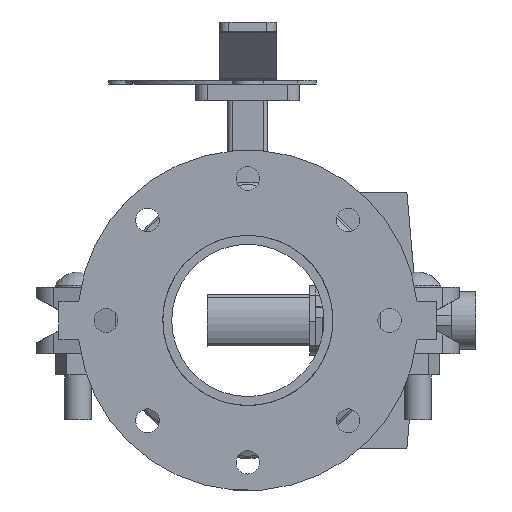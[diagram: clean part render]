
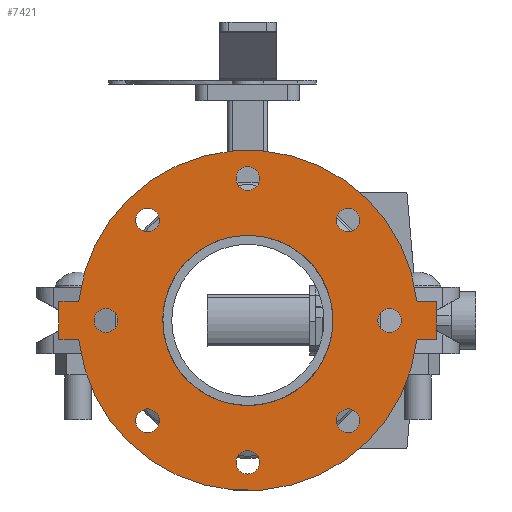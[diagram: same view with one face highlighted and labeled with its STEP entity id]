
A CAD part, front view. The second image highlights one B-rep face of the part: STEP entity #7421.
In plain terms, the highlighted planar face has unit normal (0, -1, 0) as drawn and (0, 0, -1) by its records, which use the part's own axes.
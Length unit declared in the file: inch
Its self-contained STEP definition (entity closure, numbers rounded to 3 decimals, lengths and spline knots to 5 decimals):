
#170=FACE_BOUND('',#919,.T.);
#171=FACE_BOUND('',#920,.T.);
#172=FACE_BOUND('',#921,.T.);
#173=FACE_BOUND('',#922,.T.);
#174=FACE_BOUND('',#923,.T.);
#175=FACE_BOUND('',#924,.T.);
#176=FACE_BOUND('',#925,.T.);
#177=FACE_BOUND('',#926,.T.);
#178=FACE_BOUND('',#927,.T.);
#268=PLANE('',#8052);
#509=FACE_OUTER_BOUND('',#918,.T.);
#918=EDGE_LOOP('',(#4764,#4765,#4766,#4767,#4768,#4769,#4770,#4771));
#919=EDGE_LOOP('',(#4772));
#920=EDGE_LOOP('',(#4773));
#921=EDGE_LOOP('',(#4774));
#922=EDGE_LOOP('',(#4775));
#923=EDGE_LOOP('',(#4776));
#924=EDGE_LOOP('',(#4777));
#925=EDGE_LOOP('',(#4778));
#926=EDGE_LOOP('',(#4779));
#927=EDGE_LOOP('',(#4780,#4781));
#1425=LINE('',#11290,#1982);
#1426=LINE('',#11292,#1983);
#1427=LINE('',#11294,#1984);
#1428=LINE('',#11298,#1985);
#1429=LINE('',#11300,#1986);
#1430=LINE('',#11301,#1987);
#1982=VECTOR('',#8974,0.3937);
#1983=VECTOR('',#8975,0.3937);
#1984=VECTOR('',#8976,0.3937);
#1985=VECTOR('',#8979,0.3937);
#1986=VECTOR('',#8980,0.3937);
#1987=VECTOR('',#8981,0.3937);
#2532=CIRCLE('',#8030,0.3125);
#2534=CIRCLE('',#8033,0.3125);
#2536=CIRCLE('',#8036,0.3125);
#2538=CIRCLE('',#8039,0.3125);
#2540=CIRCLE('',#8042,0.3125);
#2542=CIRCLE('',#8045,0.3125);
#2544=CIRCLE('',#8048,0.3125);
#2546=CIRCLE('',#8051,0.3125);
#2547=CIRCLE('',#8053,4.5);
#2548=CIRCLE('',#8054,4.5);
#2549=CIRCLE('',#8055,2.25);
#2550=CIRCLE('',#8056,2.25);
#2964=VERTEX_POINT('',#11240);
#2966=VERTEX_POINT('',#11246);
#2968=VERTEX_POINT('',#11252);
#2970=VERTEX_POINT('',#11258);
#2972=VERTEX_POINT('',#11264);
#2974=VERTEX_POINT('',#11270);
#2976=VERTEX_POINT('',#11276);
#2978=VERTEX_POINT('',#11282);
#2979=VERTEX_POINT('',#11286);
#2980=VERTEX_POINT('',#11287);
#2981=VERTEX_POINT('',#11289);
#2982=VERTEX_POINT('',#11291);
#2983=VERTEX_POINT('',#11293);
#2984=VERTEX_POINT('',#11295);
#2985=VERTEX_POINT('',#11297);
#2986=VERTEX_POINT('',#11299);
#2987=VERTEX_POINT('',#11302);
#2988=VERTEX_POINT('',#11303);
#3677=EDGE_CURVE('',#2964,#2964,#2532,.T.);
#3680=EDGE_CURVE('',#2966,#2966,#2534,.T.);
#3683=EDGE_CURVE('',#2968,#2968,#2536,.T.);
#3686=EDGE_CURVE('',#2970,#2970,#2538,.T.);
#3689=EDGE_CURVE('',#2972,#2972,#2540,.T.);
#3692=EDGE_CURVE('',#2974,#2974,#2542,.T.);
#3695=EDGE_CURVE('',#2976,#2976,#2544,.T.);
#3698=EDGE_CURVE('',#2978,#2978,#2546,.T.);
#3699=EDGE_CURVE('',#2979,#2980,#2547,.T.);
#3700=EDGE_CURVE('',#2980,#2981,#1425,.T.);
#3701=EDGE_CURVE('',#2981,#2982,#1426,.T.);
#3702=EDGE_CURVE('',#2982,#2983,#1427,.T.);
#3703=EDGE_CURVE('',#2983,#2984,#2548,.T.);
#3704=EDGE_CURVE('',#2984,#2985,#1428,.T.);
#3705=EDGE_CURVE('',#2985,#2986,#1429,.T.);
#3706=EDGE_CURVE('',#2986,#2979,#1430,.T.);
#3707=EDGE_CURVE('',#2987,#2988,#2549,.T.);
#3708=EDGE_CURVE('',#2988,#2987,#2550,.T.);
#4764=ORIENTED_EDGE('',*,*,#3699,.T.);
#4765=ORIENTED_EDGE('',*,*,#3700,.T.);
#4766=ORIENTED_EDGE('',*,*,#3701,.T.);
#4767=ORIENTED_EDGE('',*,*,#3702,.T.);
#4768=ORIENTED_EDGE('',*,*,#3703,.T.);
#4769=ORIENTED_EDGE('',*,*,#3704,.T.);
#4770=ORIENTED_EDGE('',*,*,#3705,.T.);
#4771=ORIENTED_EDGE('',*,*,#3706,.T.);
#4772=ORIENTED_EDGE('',*,*,#3677,.T.);
#4773=ORIENTED_EDGE('',*,*,#3680,.T.);
#4774=ORIENTED_EDGE('',*,*,#3683,.T.);
#4775=ORIENTED_EDGE('',*,*,#3686,.T.);
#4776=ORIENTED_EDGE('',*,*,#3689,.T.);
#4777=ORIENTED_EDGE('',*,*,#3692,.T.);
#4778=ORIENTED_EDGE('',*,*,#3695,.T.);
#4779=ORIENTED_EDGE('',*,*,#3698,.T.);
#4780=ORIENTED_EDGE('',*,*,#3707,.T.);
#4781=ORIENTED_EDGE('',*,*,#3708,.T.);
#7421=ADVANCED_FACE('',(#509,#170,#171,#172,#173,#174,#175,#176,#177,#178),
#268,.T.);
#8030=AXIS2_PLACEMENT_3D('',#11242,#8919,#8920);
#8033=AXIS2_PLACEMENT_3D('',#11248,#8926,#8927);
#8036=AXIS2_PLACEMENT_3D('',#11254,#8933,#8934);
#8039=AXIS2_PLACEMENT_3D('',#11260,#8940,#8941);
#8042=AXIS2_PLACEMENT_3D('',#11266,#8947,#8948);
#8045=AXIS2_PLACEMENT_3D('',#11272,#8954,#8955);
#8048=AXIS2_PLACEMENT_3D('',#11278,#8961,#8962);
#8051=AXIS2_PLACEMENT_3D('',#11284,#8968,#8969);
#8052=AXIS2_PLACEMENT_3D('',#11285,#8970,#8971);
#8053=AXIS2_PLACEMENT_3D('',#11288,#8972,#8973);
#8054=AXIS2_PLACEMENT_3D('',#11296,#8977,#8978);
#8055=AXIS2_PLACEMENT_3D('',#11304,#8982,#8983);
#8056=AXIS2_PLACEMENT_3D('',#11305,#8984,#8985);
#8919=DIRECTION('center_axis',(0.,0.,1.));
#8920=DIRECTION('ref_axis',(-0.707,0.707,0.));
#8926=DIRECTION('center_axis',(0.,0.,1.));
#8927=DIRECTION('ref_axis',(0.,1.,0.));
#8933=DIRECTION('center_axis',(0.,0.,1.));
#8934=DIRECTION('ref_axis',(0.707,0.707,0.));
#8940=DIRECTION('center_axis',(0.,0.,1.));
#8941=DIRECTION('ref_axis',(1.,0.,0.));
#8947=DIRECTION('center_axis',(0.,0.,1.));
#8948=DIRECTION('ref_axis',(0.707,-0.707,0.));
#8954=DIRECTION('center_axis',(0.,0.,1.));
#8955=DIRECTION('ref_axis',(0.,-1.,0.));
#8961=DIRECTION('center_axis',(0.,0.,1.));
#8962=DIRECTION('ref_axis',(-0.707,-0.707,0.));
#8968=DIRECTION('center_axis',(0.,0.,1.));
#8969=DIRECTION('ref_axis',(-1.,0.,0.));
#8970=DIRECTION('center_axis',(0.,0.,-1.));
#8971=DIRECTION('ref_axis',(-1.,0.,0.));
#8972=DIRECTION('center_axis',(0.,0.,-1.));
#8973=DIRECTION('ref_axis',(-1.,0.,0.));
#8974=DIRECTION('',(0.,1.,0.));
#8975=DIRECTION('',(1.,0.,0.));
#8976=DIRECTION('',(0.,-1.,0.));
#8977=DIRECTION('center_axis',(0.,0.,-1.));
#8978=DIRECTION('ref_axis',(-1.,0.,0.));
#8979=DIRECTION('',(0.,-1.,0.));
#8980=DIRECTION('',(-1.,0.,0.));
#8981=DIRECTION('',(0.,1.,0.));
#8982=DIRECTION('center_axis',(0.,0.,1.));
#8983=DIRECTION('ref_axis',(-1.,0.,0.));
#8984=DIRECTION('center_axis',(0.,0.,1.));
#8985=DIRECTION('ref_axis',(-1.,0.,0.));
#11240=CARTESIAN_POINT('',(-2.43068,2.43068,-0.5));
#11242=CARTESIAN_POINT('Origin',(-2.65165,2.65165,-0.5));
#11246=CARTESIAN_POINT('',(0.,3.4375,-0.5));
#11248=CARTESIAN_POINT('Origin',(0.,3.75,-0.5));
#11252=CARTESIAN_POINT('',(2.43068,2.43068,-0.5));
#11254=CARTESIAN_POINT('Origin',(2.65165,2.65165,-0.5));
#11258=CARTESIAN_POINT('',(3.4375,0.,-0.5));
#11260=CARTESIAN_POINT('Origin',(3.75,0.,-0.5));
#11264=CARTESIAN_POINT('',(2.43068,-2.43068,-0.5));
#11266=CARTESIAN_POINT('Origin',(2.65165,-2.65165,-0.5));
#11270=CARTESIAN_POINT('',(0.,-3.4375,-0.5));
#11272=CARTESIAN_POINT('Origin',(0.,-3.75,-0.5));
#11276=CARTESIAN_POINT('',(-2.43068,-2.43068,-0.5));
#11278=CARTESIAN_POINT('Origin',(-2.65165,-2.65165,-0.5));
#11282=CARTESIAN_POINT('',(-3.4375,0.,-0.5));
#11284=CARTESIAN_POINT('Origin',(-3.75,0.,-0.5));
#11285=CARTESIAN_POINT('Origin',(0.,0.,-0.5));
#11286=CARTESIAN_POINT('',(-0.5,-4.47214,-0.5));
#11287=CARTESIAN_POINT('',(-0.5,4.47214,-0.5));
#11288=CARTESIAN_POINT('Origin',(0.,0.,-0.5));
#11289=CARTESIAN_POINT('',(-0.5,5.,-0.5));
#11290=CARTESIAN_POINT('',(-0.5,-5.,-0.5));
#11291=CARTESIAN_POINT('',(0.5,5.,-0.5));
#11292=CARTESIAN_POINT('',(-0.5,5.,-0.5));
#11293=CARTESIAN_POINT('',(0.5,4.47214,-0.5));
#11294=CARTESIAN_POINT('',(0.5,5.,-0.5));
#11295=CARTESIAN_POINT('',(0.5,-4.47214,-0.5));
#11296=CARTESIAN_POINT('Origin',(0.,0.,-0.5));
#11297=CARTESIAN_POINT('',(0.5,-5.,-0.5));
#11298=CARTESIAN_POINT('',(0.5,5.,-0.5));
#11299=CARTESIAN_POINT('',(-0.5,-5.,-0.5));
#11300=CARTESIAN_POINT('',(0.5,-5.,-0.5));
#11301=CARTESIAN_POINT('',(-0.5,-5.,-0.5));
#11302=CARTESIAN_POINT('',(0.5,2.19374,-0.5));
#11303=CARTESIAN_POINT('',(2.25,0.,-0.5));
#11304=CARTESIAN_POINT('Origin',(0.,0.,-0.5));
#11305=CARTESIAN_POINT('Origin',(0.,0.,-0.5));
